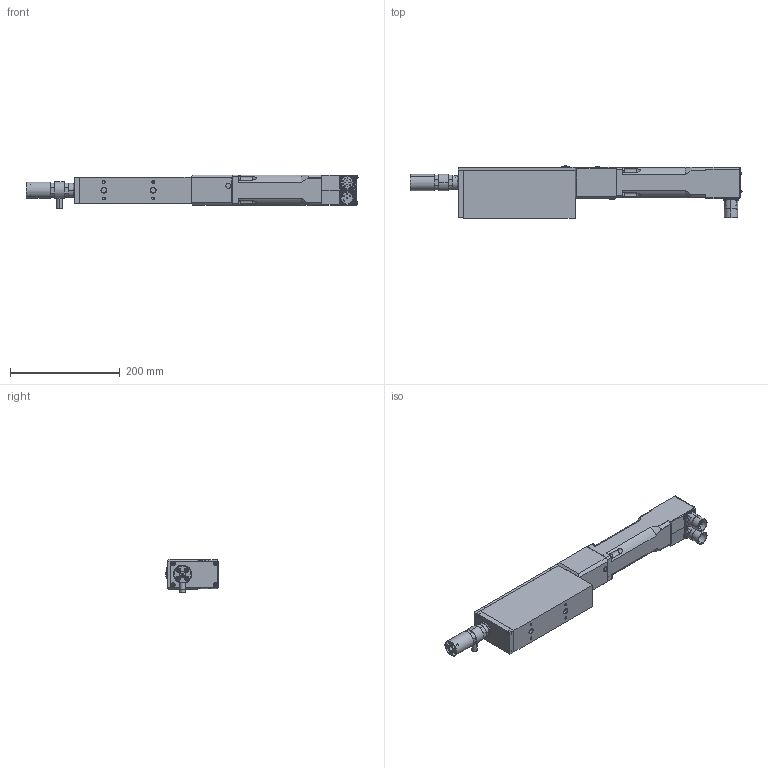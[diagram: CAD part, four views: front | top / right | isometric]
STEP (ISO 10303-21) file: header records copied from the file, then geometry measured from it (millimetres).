
FILE_DESCRIPTION (( 'STEP AP203' ), '1' );
FILE_NAME ('KM PR5IP010-010-040H.STEP', '2021-02-05T10:35:24', ( '' ), ( '' ), 'SwSTEP 2.0', 'SolidWorks 2016', '' );
FILE_SCHEMA (( 'CONFIG_CONTROL_DESIGN' ));
Length unit declared in the file: millimetre
Products named in the file (1): KM PR5IP010-010-040H
Bounding box: 605.59 x 95.58 x 61.5 mm (x, y, z)
Volume: 1603670.3 mm3; surface area: 287889.1 mm2
Topology: 29 solids, 41 shells, 2115 faces, 4949 edges, 2933 vertices
Faces by surface type: plane 970, cylinder 593, cone 412, bspline 87, torus 40, sphere 13
Entity records: 62887 total; most frequent: CARTESIAN_POINT 15629, DIRECTION 10005, ORIENTED_EDGE 9550, EDGE_CURVE 4775, AXIS2_PLACEMENT_3D 3851, VERTEX_POINT 2920, EDGE_LOOP 2415, LINE 2303
